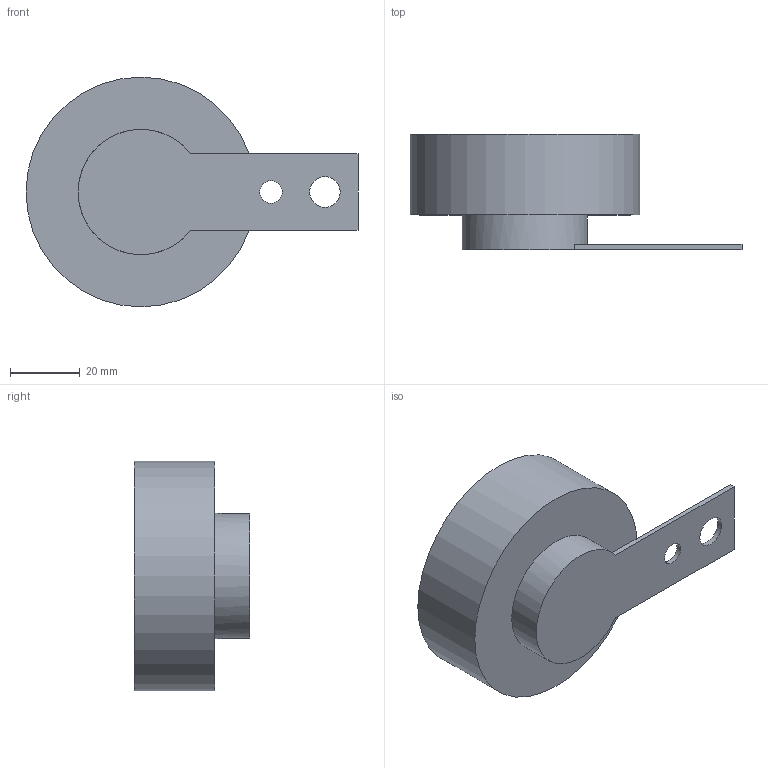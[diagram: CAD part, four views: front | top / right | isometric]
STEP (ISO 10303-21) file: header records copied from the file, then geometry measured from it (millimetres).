
FILE_DESCRIPTION(/* description */ (''),/* implementation_level */ '2;1');
FILE_NAME(/* name */ 'D:/_My Docs on T530/Matt''s Homework/Projects/GitHub/TTL-HW/STEPs/Horn Max Dimensions.step',/* time_stamp */ '2021-03-21T23:53:31-04:00',/* author */ (''),/* organization */ (''),/* preprocessor_version */ 'ST-DEVELOPER v18.1',/* originating_system */ 'Autodesk Translation Framework v9.10.0.1330',/* authorisation */ '');
FILE_SCHEMA (('AUTOMOTIVE_DESIGN { 1 0 10303 214 3 1 1 }'));
Length unit declared in the file: millimetre
Products named in the file (1): Horn
Bounding box: 95.4 x 33.15 x 66 mm (x, y, z)
Volume: 90750.2 mm3; surface area: 14815.3 mm2
Topology: 1 solids, 1 shells, 11 faces, 24 edges, 16 vertices
Faces by surface type: plane 7, cylinder 4
Full cylindrical faces by diameter (mm): 6.5 x1, 8.8 x1, 36 x1, 66 x1
Entity records: 349 total; most frequent: DIRECTION 58, CARTESIAN_POINT 52, ORIENTED_EDGE 48, EDGE_CURVE 24, AXIS2_PLACEMENT_3D 22, EDGE_LOOP 16, VERTEX_POINT 16, LINE 14
